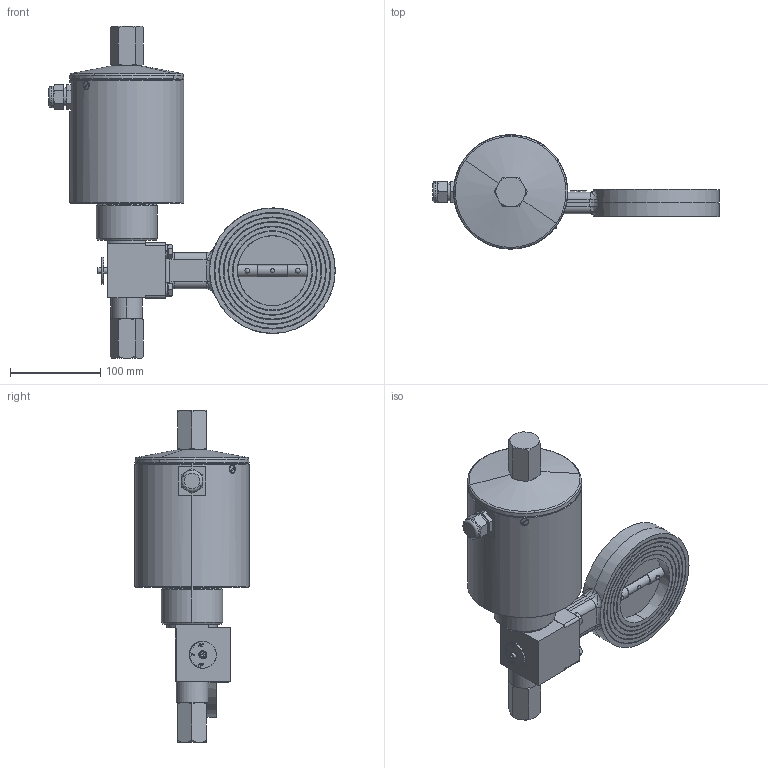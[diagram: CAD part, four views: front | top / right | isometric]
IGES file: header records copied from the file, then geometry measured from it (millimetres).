
Global section: file name: No Iges File Name specified; native system: AutoDesk Inventor R12.0; preprocessor: AutoDesk Inventor Iges Exporter R12.0; date: 20100526.085318; units: millimetre
Bounding box: 318.51 x 127 x 368.88 mm (x, y, z)
Volume: 2754791.4 mm3; surface area: 193100.9 mm2
Topology: 1 solids, 1 shells, 665 faces, 1718 edges, 1098 vertices
Faces by surface type: plane 369, bspline 91, cone 78, cylinder 76, revolution 35, torus 10, sphere 6
